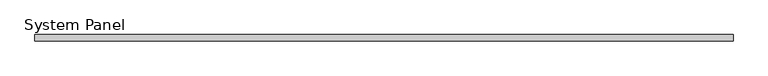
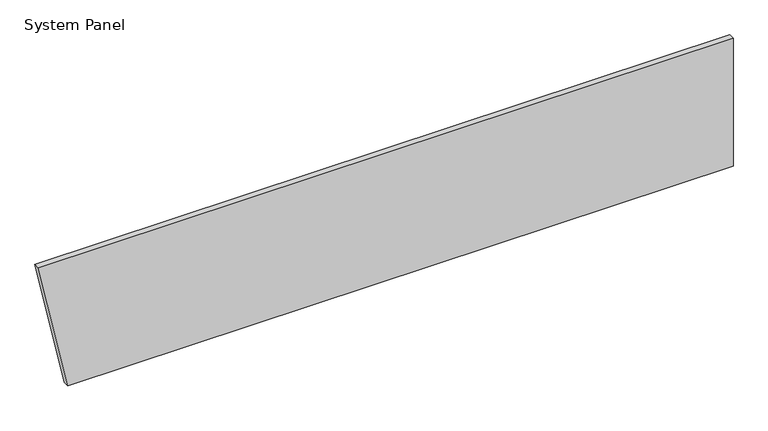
"""IFC4 building model written with IfcOpenShell, lengths in millimetres: plate geometry, System Panel : Inspire 50mm Horizontal - Plain RHEA-PIR."""

from ifc_helpers import new_model, si_unit, frame, origin, place, context, project, spatial, polyline, outline, extrude, source, transform, mapped, element, save


def system_panel_0a7c523a(model_context):
    return source(origin(), model_context, "Body", "SweptSolid", [
        extrude(outline(polyline([(0.0, -2590.0), (0.0, 2829.1323567), (1100.0, 2829.1323567), (1100.0, -2829.1323567), (0.0, -2590.0)])), frame((0.0, -50.0, 0.0), z_axis=(0.0, 1.0, 0.0), x_axis=(0.0, 0.0, 1.0)), (0.0, 0.0, 1.0), 50.0),
    ])


if __name__ == "__main__":
    model = new_model("IFC4")
    model_context = context("Model", 3, world=origin())
    ifc_project = project(units=[si_unit("LENGTHUNIT", "METRE", prefix="MILLI")], contexts=[model_context])
    site = spatial("IfcSite", under=ifc_project)
    building = spatial("IfcBuilding", under=site)
    placement = place(None, origin())
    system_panel_shape = system_panel_0a7c523a(model_context)
    element("IfcPlate", 1, ObjectType="System Panel : Inspire 50mm Horizontal - Plain RHEA-PIR", at=placement, inside=building, context=model_context, shape_type="MappedRepresentation", body=[
        mapped(system_panel_shape, transform((0.0, 0.0, 0.0), x_axis=(1.0, 0.0, 0.0), y_axis=(0.0, 1.0, 0.0), z_axis=(0.0, 0.0, 1.0))),
    ])
    save(model, "model.ifc")
